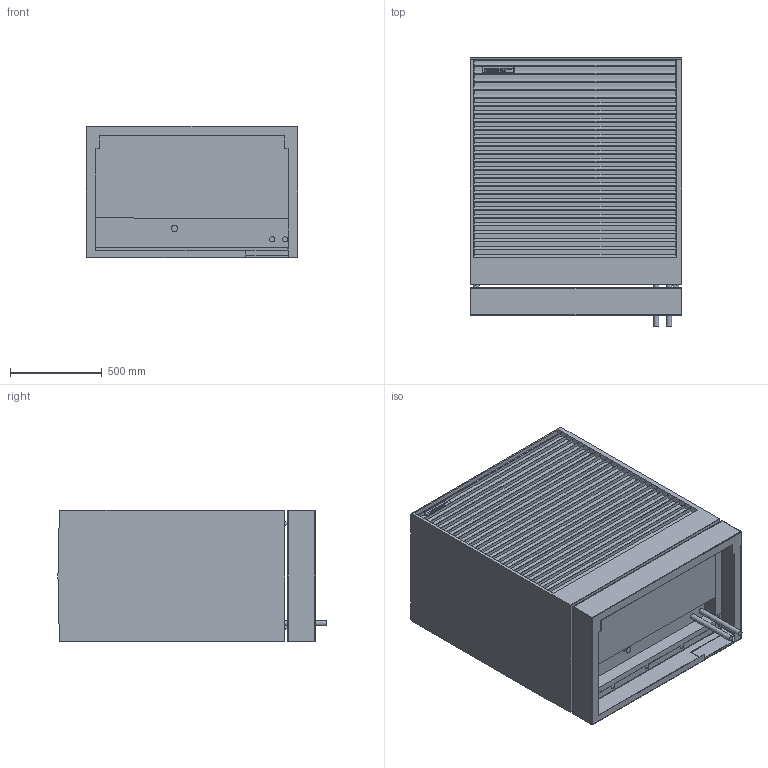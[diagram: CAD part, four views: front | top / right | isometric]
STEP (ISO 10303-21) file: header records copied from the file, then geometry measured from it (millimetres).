
FILE_DESCRIPTION (( 'STEP AP214' ), '1' );
FILE_NAME ('ADAPT 2 M,L_spodnji priklop + kovinski temelj.STEP', '2026-03-13T08:33:38', ( '' ), ( '' ), 'SwSTEP 2.0', 'SolidWorks 2024', '' );
FILE_SCHEMA (( 'AUTOMOTIVE_DESIGN' ));
Length unit declared in the file: millimetre
Products named in the file (3): TKT_ADAPT 2; ADAPT 2 M,L_Spodnji priklop; ADAPT 2 M,L_spodnji priklop + kovinski temelj
Assembly tree (2 placements, depth 2):
  ADAPT 2 M,L_spodnji priklop + kovinski temelj
    TKT_ADAPT 2
    ADAPT 2 M,L_Spodnji priklop
Bounding box: 1150 x 1457.46 x 715 mm (x, y, z)
Volume: 947089301.1 mm3; surface area: 10766952.8 mm2
Topology: 2 solids, 2 shells, 788 faces, 2185 edges, 1433 vertices
Faces by surface type: plane 629, bspline 76, cylinder 70, sphere 9, cone 4
Full cylindrical faces by diameter (mm): 8.376 x2, 12.67 x2, 13 x8, 19 x4, 28 x2, 34.029 x1
Entity records: 34343 total; most frequent: CARTESIAN_POINT 8842, ORIENTED_EDGE 4270, DIRECTION 3501, EDGE_CURVE 2135, VECTOR 1845, LINE 1845, VERTEX_POINT 1419, EDGE_LOOP 908
